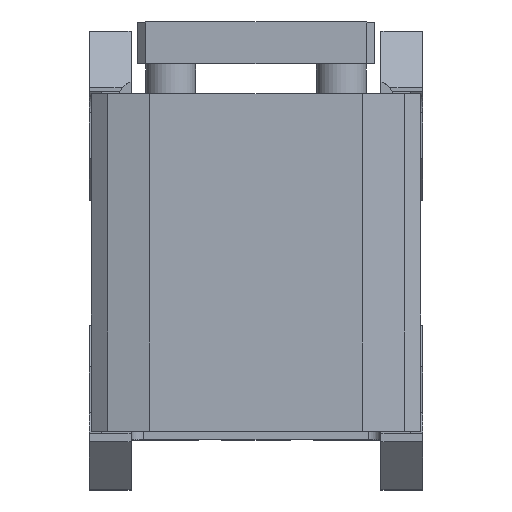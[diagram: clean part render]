
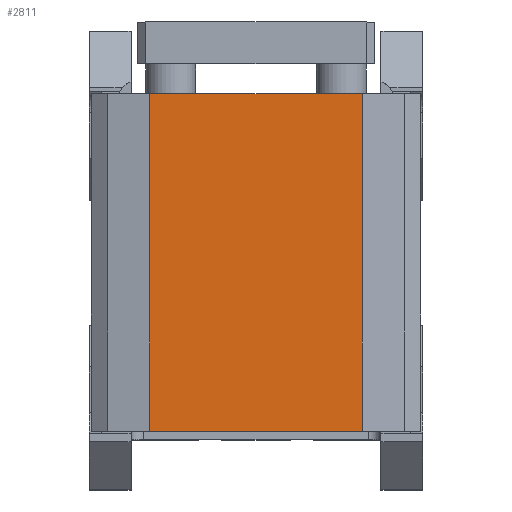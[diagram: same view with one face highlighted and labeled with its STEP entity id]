
A CAD part, top view. The second image highlights one B-rep face of the part: STEP entity #2811.
In plain terms, the highlighted planar face has unit normal (0, 0, 1).
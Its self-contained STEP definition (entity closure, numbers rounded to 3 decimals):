
#212=FACE_OUTER_BOUND('',#371,.T.);
#371=EDGE_LOOP('',(#1943,#1944,#1945,#1946));
#564=LINE('',#4010,#865);
#610=LINE('',#4111,#911);
#616=LINE('',#4123,#917);
#617=LINE('',#4125,#918);
#865=VECTOR('',#3241,81.);
#911=VECTOR('',#3335,51.);
#917=VECTOR('',#3347,81.);
#918=VECTOR('',#3350,51.);
#1162=VERTEX_POINT('',#4008);
#1163=VERTEX_POINT('',#4009);
#1194=VERTEX_POINT('',#4109);
#1197=VERTEX_POINT('',#4121);
#1432=EDGE_CURVE('',#1162,#1163,#564,.T.);
#1484=EDGE_CURVE('',#1194,#1163,#610,.T.);
#1490=EDGE_CURVE('',#1194,#1197,#616,.T.);
#1491=EDGE_CURVE('',#1162,#1197,#617,.T.);
#1943=ORIENTED_EDGE('',*,*,#1491,.F.);
#1944=ORIENTED_EDGE('',*,*,#1432,.T.);
#1945=ORIENTED_EDGE('',*,*,#1484,.F.);
#1946=ORIENTED_EDGE('',*,*,#1490,.T.);
#2540=PLANE('',#2980);
#2811=ADVANCED_FACE('',(#212),#2540,.T.);
#2980=AXIS2_PLACEMENT_3D('',#4124,#3348,#3349);
#3241=DIRECTION('',(0.,-1.,0.));
#3335=DIRECTION('',(-1.,0.,0.));
#3347=DIRECTION('',(0.,1.,0.));
#3348=DIRECTION('center_axis',(0.,0.,1.));
#3349=DIRECTION('ref_axis',(0.,-1.,0.));
#3350=DIRECTION('',(1.,0.,0.));
#4008=CARTESIAN_POINT('',(-25.5,-15.,80.));
#4009=CARTESIAN_POINT('',(-25.5,-96.,80.));
#4010=CARTESIAN_POINT('',(-25.5,-15.,80.));
#4109=CARTESIAN_POINT('',(25.5,-96.,80.));
#4111=CARTESIAN_POINT('',(25.5,-96.,80.));
#4121=CARTESIAN_POINT('',(25.5,-15.,80.));
#4123=CARTESIAN_POINT('',(25.5,-96.,80.));
#4124=CARTESIAN_POINT('Origin',(-39.5,-15.,80.));
#4125=CARTESIAN_POINT('',(-25.5,-15.,80.));
